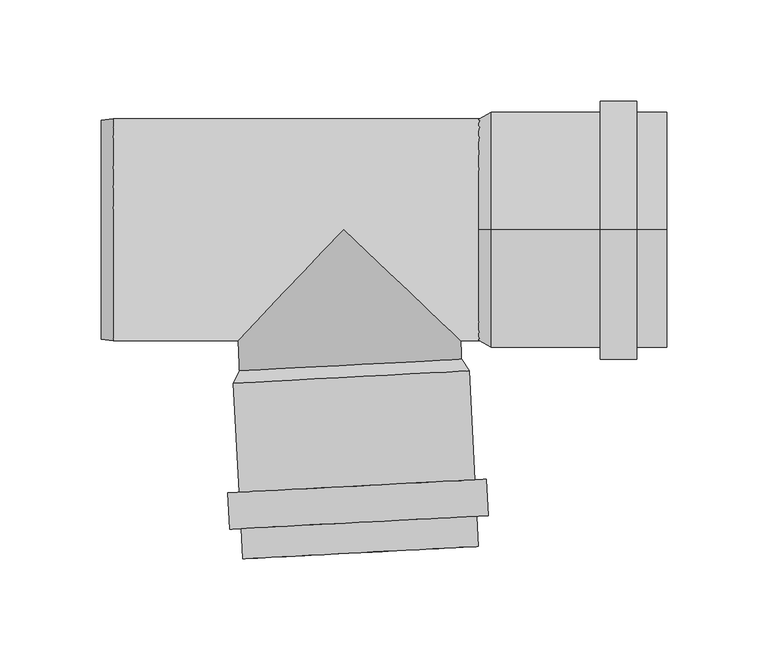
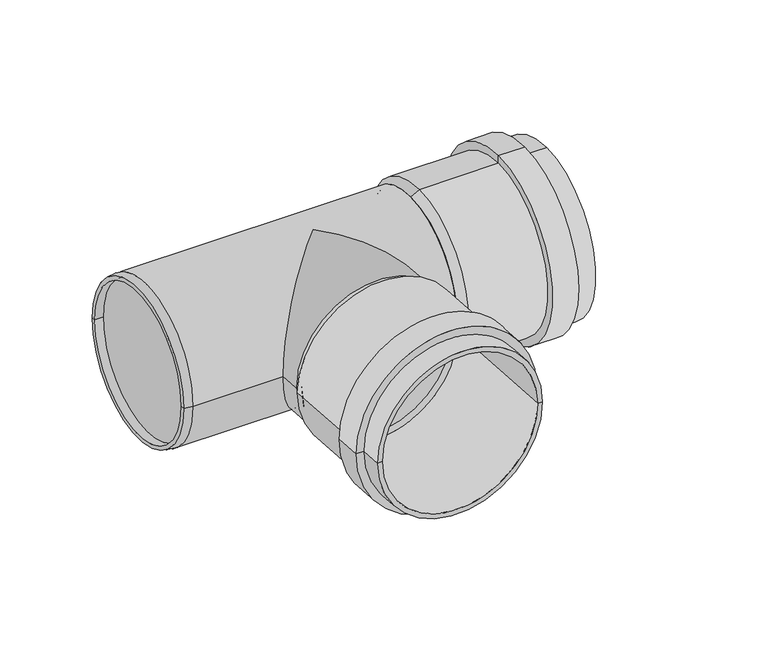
"""IFC4 building model written with IfcOpenShell, lengths in millimetres: pipe fitting geometry, OSMA_KG2000_PPKGEA : Odbočka 87°."""

import ifcopenshell
import ifcopenshell.guid

model = None  # the IFC model being written
_history = None  # IfcOwnerHistory: only IFC2X3 demands one
_inside = {}  # id of a spatial element -> (the spatial element, [elements in it])
_under = {}  # id of a project, library or spatial element -> (it, [spatial elements below it])
_declared = {}  # id of a project -> (the project, [libraries it declares])
_typed = {}  # id of a type object -> (the type object, [elements of that type])
_made_of = {}  # id of a material, layer set ... -> (it, [elements and type objects made of it])


def new_model(schema):
    """Start an empty IFC model of exactly this schema.

    Asked for "IFC4X3", IfcOpenShell would pick the latest addendum, in which some entities
    have other attributes; the version numbers below select the first issue.
    IFC2X3 requires an IfcOwnerHistory on every rooted entity: one is made here for all.
    """
    global model, _history
    if schema == "IFC4X3":
        model = ifcopenshell.file(schema_version=(4, 3, 0, 0))
    else:
        model = ifcopenshell.file(schema=schema)
    _inside.clear()
    _under.clear()
    _declared.clear()
    _typed.clear()
    _made_of.clear()
    _history = None
    if model.schema == "IFC2X3":
        org = make("IfcOrganization", Name="unknown")
        user = make(
            "IfcPersonAndOrganization",
            ThePerson=make("IfcPerson", FamilyName="unknown"),
            TheOrganization=org,
        )
        app = make(
            "IfcApplication",
            ApplicationDeveloper=org,
            Version="unknown",
            ApplicationFullName="unknown",
            ApplicationIdentifier="unknown",
        )
        _history = make(
            "IfcOwnerHistory",
            OwningUser=user,
            OwningApplication=app,
            ChangeAction="ADDED",
            CreationDate=0,
        )
    return model


def make(cls, **values):
    """One entity of the class cls with the attributes given. An attribute that is None is left unset."""
    return model.create_entity(
        cls, **{name: value for name, value in values.items() if value is not None}
    )


def rooted(cls, **values):
    """An entity with a GlobalId (a new one), such as an element, a storey or a relation."""
    return make(cls, GlobalId=ifcopenshell.guid.new(), OwnerHistory=_history, **values)


def si_unit(unit_type, name, prefix=None):
    """IfcSIUnit, for example si_unit("LENGTHUNIT", "METRE", prefix="MILLI")."""
    return make("IfcSIUnit", UnitType=unit_type, Prefix=prefix, Name=name)


def assignment(units):
    """IfcUnitAssignment: the units of a project."""
    return None if units is None else make("IfcUnitAssignment", Units=units)


def point(xyz):
    """IfcCartesianPoint."""
    return None if xyz is None else make("IfcCartesianPoint", Coordinates=xyz)


def direction(xyz):
    """IfcDirection."""
    return None if xyz is None else make("IfcDirection", DirectionRatios=xyz)


def frame(location, z_axis=None, x_axis=None):
    """IfcAxis2Placement3D, a coordinate frame: its origin and axes. An axis left out is left unset."""
    return make(
        "IfcAxis2Placement3D",
        Location=point(location),
        Axis=direction(z_axis),
        RefDirection=direction(x_axis),
    )


def origin():
    """The frame at (0, 0, 0) with its axes left unset."""
    return frame((0.0, 0.0, 0.0))


def place(relative_to, where):
    """IfcLocalPlacement: puts the frame where relative to a parent placement (None: the world)."""
    return make(
        "IfcLocalPlacement", PlacementRelTo=relative_to, RelativePlacement=where
    )


def context(
    kind, dimensions, precision=None, world=None, true_north=None, identifier=None
):
    """IfcGeometricRepresentationContext, for example the 3D "Model" context."""
    return make(
        "IfcGeometricRepresentationContext",
        ContextIdentifier=identifier,
        ContextType=kind,
        CoordinateSpaceDimension=dimensions,
        Precision=precision,
        WorldCoordinateSystem=world,
        TrueNorth=true_north,
    )


def project(units=None, contexts=None):
    """IfcProject with its units and contexts."""
    return rooted(
        "IfcProject",
        Name="project",
        RepresentationContexts=contexts,
        UnitsInContext=assignment(units),
    )


def spatial(cls, under=None, at=None, **own):
    """A site, building, storey or space (cls), placed at a placement, below another one or the project."""
    s = rooted(cls, ObjectPlacement=at, **own)
    if under is not None:
        _under.setdefault(under.id(), (under, []))[1].append(s)
    return s


def polyline(points):
    """IfcPolyline through the points."""
    return make("IfcPolyline", Points=[point(p) for p in points])


def circle_curve(where, radius):
    """IfcCircle in the frame where."""
    return make("IfcCircle", Position=where, Radius=radius)


def ellipse_curve(where, semi_axis1, semi_axis2):
    """IfcEllipse in the frame where."""
    return make(
        "IfcEllipse", Position=where, SemiAxis1=semi_axis1, SemiAxis2=semi_axis2
    )


def shape(context_of_items, identifier, shape_type, items):
    """IfcShapeRepresentation: the items that make up one representation, for example the "Body"."""
    return make(
        "IfcShapeRepresentation",
        ContextOfItems=context_of_items,
        RepresentationIdentifier=identifier,
        RepresentationType=shape_type,
        Items=items,
    )


def source(mapping_origin, context_of_items, identifier, shape_type, items):
    """IfcRepresentationMap: a shape defined once, which mapped items show again and again."""
    return make(
        "IfcRepresentationMap",
        MappingOrigin=mapping_origin,
        MappedRepresentation=shape(context_of_items, identifier, shape_type, items),
    )


def transform(
    local_origin,
    x_axis=None,
    y_axis=None,
    z_axis=None,
    scale=None,
    scale2=None,
    scale3=None,
    uniform=True,
):
    """IfcCartesianTransformationOperator3D, or its non-uniform kind. x_axis, y_axis, z_axis: its Axis1, 2, 3."""
    if uniform:
        return make(
            "IfcCartesianTransformationOperator3D",
            Axis1=direction(x_axis),
            Axis2=direction(y_axis),
            LocalOrigin=point(local_origin),
            Scale=scale,
            Axis3=direction(z_axis),
        )
    return make(
        "IfcCartesianTransformationOperator3DnonUniform",
        Axis1=direction(x_axis),
        Axis2=direction(y_axis),
        LocalOrigin=point(local_origin),
        Scale=scale,
        Axis3=direction(z_axis),
        Scale2=scale2,
        Scale3=scale3,
    )


def mapped(mapping_source, mapping_target):
    """IfcMappedItem: shows the shape of a source again, moved by a transform."""
    return make(
        "IfcMappedItem", MappingSource=mapping_source, MappingTarget=mapping_target
    )


def made_of(thing, what):
    """Note that an element or type object is made of a material, layer set ...; save() writes the relation."""
    if what is not None:
        _made_of.setdefault(what.id(), (what, []))[1].append(thing)
    return thing


def element(
    cls,
    number,
    at=None,
    inside=None,
    cuts=None,
    type_object=None,
    material=None,
    context=None,
    identifier="Body",
    shape_type=None,
    held_by="IfcProductDefinitionShape",
    body=None,
    shapes=None,
    **own,
):
    """One element of the class cls, such as IfcWall. Its Tag is "e" and its number.

    at: its placement. inside: the storey or other place that contains it. cuts: it is an
    opening in that element (IfcRelVoidsElement). A single representation is given by context,
    identifier, shape_type and body (its items); several are given by shapes. held_by: the class
    of the entity that holds the representations. save() writes the other relations.
    """
    e = rooted(cls, Tag="e%d" % number, ObjectPlacement=at, **own)
    if body is not None:
        shapes = [shape(context, identifier, shape_type, body)]
    if shapes is not None:
        e.Representation = make(held_by, Representations=shapes)
    if inside is not None:
        _inside.setdefault(inside.id(), (inside, []))[1].append(e)
    if cuts is not None:
        rooted(
            "IfcRelVoidsElement", RelatingBuildingElement=cuts, RelatedOpeningElement=e
        )
    if type_object is not None:
        _typed.setdefault(type_object.id(), (type_object, []))[1].append(e)
    return made_of(e, material)


def aggregate(whole, parts):
    """IfcRelAggregates: a whole, such as a stair, and the parts it consists of."""
    return rooted("IfcRelAggregates", RelatingObject=whole, RelatedObjects=parts)


def save(model, path):
    """Write the relations noted so far, then the file.

    IfcRelAggregates (storeys below a building ...), IfcRelContainedInSpatialStructure (elements
    in a storey), IfcRelDefinesByType, IfcRelAssociatesMaterial and IfcRelDeclares: one each for
    every whole, place, type object, material and project.
    """
    for whole, parts in _under.values():
        aggregate(whole, parts)
    for where, things in _inside.values():
        rooted(
            "IfcRelContainedInSpatialStructure",
            RelatedElements=things,
            RelatingStructure=where,
        )
    for kind, things in _typed.values():
        rooted("IfcRelDefinesByType", RelatedObjects=things, RelatingType=kind)
    for what, things in _made_of.values():
        rooted("IfcRelAssociatesMaterial", RelatedObjects=things, RelatingMaterial=what)
    for by, libraries in _declared.values():
        rooted("IfcRelDeclares", RelatingContext=by, RelatedDefinitions=libraries)
    model.write(path)


def plane_surface(at):
    """IfcPlane: the flat surface through the origin of the frame at, square to its z axis."""
    return make("IfcPlane", Position=at)


def cylinder_surface(at, radius):
    """IfcCylindricalSurface: all points at the distance radius from the z axis of the frame at."""
    return make("IfcCylindricalSurface", Position=at, Radius=radius)


def revolved_surface(curve, axis_point, axis_direction):
    """IfcSurfaceOfRevolution: the curve turned about the line through axis_point along axis_direction."""
    return make(
        "IfcSurfaceOfRevolution",
        SweptCurve=make("IfcArbitraryOpenProfileDef", ProfileType="CURVE", Curve=curve),
        AxisPosition=make("IfcAxis1Placement", Location=point(axis_point), Axis=direction(axis_direction)),
    )


def advanced_brep(points, edges, surfaces, faces):
    """IfcAdvancedBrep: a solid bounded by faces that lie on surfaces and meet in shared edges.

    An edge is (start, end): straight between two places in points (the first is 0);
    or (start, end, curve); or (start, end, curve, False) where it runs against its curve.
    A face is (place in surfaces, loops), or (place, loops, False) where it looks against
    its surface's normal. A loop lists edges by number (the first is 1), with a minus sign
    where the edge is run from its end to its start. The first loop is the outer one.
    """
    corners = [point(p) for p in points]
    vertices = [make("IfcVertexPoint", VertexGeometry=c) for c in corners]
    made = []
    for start, end, *more in edges:
        made.append(
            make(
                "IfcEdgeCurve",
                EdgeStart=vertices[start],
                EdgeEnd=vertices[end],
                EdgeGeometry=more[0] if more else make("IfcPolyline", Points=[corners[start], corners[end]]),
                SameSense=more[1] if len(more) > 1 else True,
            )
        )
    hull = []
    for where, loops, *sense in faces:
        bounds = []
        for j, loop in enumerate(loops):
            ring = [make("IfcOrientedEdge", EdgeElement=made[abs(k) - 1], Orientation=k > 0) for k in loop]
            bounds.append(
                make(
                    "IfcFaceOuterBound" if j == 0 else "IfcFaceBound",
                    Bound=make("IfcEdgeLoop", EdgeList=ring),
                    Orientation=True,
                )
            )
        hull.append(make("IfcAdvancedFace", Bounds=bounds, FaceSurface=surfaces[where], SameSense=sense[0] if sense else True))
    return make("IfcAdvancedBrep", Outer=make("IfcClosedShell", CfsFaces=hull))


def pipe_fitting_45521c51(model_context):
    return source(origin(), model_context, "Body", "AdvancedBrep", [
        advanced_brep(
        [(58.7451492, -70.0214784, 1.6299565), (-51.1040996, -75.7784336, 1.6299565), (-46.5508714, -162.6592032, 1.6299565), (63.2983774, -156.902248, 1.6299565), (64.9666313, -123.7695311, 1.6299565), (-51.6732984, -129.8823708, 1.6299565), (-54.49944, -75.9563759, 1.6299565), (62.1404896, -69.8435362, 1.6299565), (70.5589567, -123.4764497, 1.6299565), (-57.2656238, -130.1754521, 1.6299565), (71.5010039, -141.4517813, 1.6299565), (-56.3235766, -148.1507837, 1.6299565), (65.9086785, -141.7448627, 1.6299565), (-50.7312512, -147.8577024, 1.6299565), (66.6937178, -156.7243057, 1.6299565), (-49.9462118, -162.8371454, 1.6299565), (55.0357931, -64.2076435, 1.6299565), (-48.0227749, -69.6087142, 1.6299565), (58.4311335, -64.0297012, 1.6299565), (-51.4181153, -69.7866564, 1.6299565)],
        [
            (0, 1, circle_curve(frame((3.8205248, -72.899956, 1.6299565), z_axis=(-0.05233595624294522, 0.9986295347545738, 0.0), x_axis=(-0.9986295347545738, -0.05233595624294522, 0.0)), 55.0)),
            (1, 2),
            (2, 3, circle_curve(frame((8.373753, -159.7807256, 1.6299565), z_axis=(0.05233595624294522, -0.9986295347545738, 0.0), x_axis=(-0.9986295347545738, -0.05233595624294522, 0.0)), 55.0)),
            (3, 0),
            (1, 0, circle_curve(frame((3.8205248, -72.899956, 1.6299565), z_axis=(-0.05233595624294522, 0.9986295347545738, 0.0), x_axis=(-0.9986295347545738, -0.05233595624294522, 0.0)), 55.0)),
            (3, 2, circle_curve(frame((8.373753, -159.7807256, 1.6299565), z_axis=(0.05233595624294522, -0.9986295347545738, 0.0), x_axis=(-0.9986295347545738, -0.05233595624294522, 0.0)), 55.0)),
            (4, 5, circle_curve(frame((6.6466664, -126.8259509, 1.6299565), z_axis=(-0.05233595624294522, 0.9986295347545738, 0.0), x_axis=(-0.9986295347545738, -0.05233595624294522, 0.0)), 58.4)),
            (5, 6),
            (6, 7, circle_curve(frame((3.8205248, -72.899956, 1.6299565), z_axis=(0.05233595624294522, -0.9986295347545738, 0.0), x_axis=(-0.9986295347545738, -0.05233595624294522, 0.0)), 58.4)),
            (7, 4),
            (5, 4, circle_curve(frame((6.6466664, -126.8259509, 1.6299565), z_axis=(-0.05233595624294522, 0.9986295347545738, 0.0), x_axis=(-0.9986295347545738, -0.05233595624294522, 0.0)), 58.4)),
            (7, 6, circle_curve(frame((3.8205248, -72.899956, 1.6299565), z_axis=(0.05233595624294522, -0.9986295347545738, 0.0), x_axis=(-0.9986295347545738, -0.05233595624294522, 0.0)), 58.4)),
            (8, 9, circle_curve(frame((6.6466664, -126.8259509, 1.6299565), z_axis=(-0.05233595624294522, 0.9986295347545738, 0.0), x_axis=(-0.9986295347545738, -0.05233595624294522, 0.0)), 64.0)),
            (9, 5),
            (4, 8),
            (9, 8, circle_curve(frame((6.6466664, -126.8259509, 1.6299565), z_axis=(-0.05233595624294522, 0.9986295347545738, 0.0), x_axis=(-0.9986295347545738, -0.05233595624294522, 0.0)), 64.0)),
            (10, 11, circle_curve(frame((7.5887137, -144.8012825, 1.6299565), z_axis=(-0.05233595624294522, 0.9986295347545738, 0.0), x_axis=(-0.9986295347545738, -0.05233595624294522, 0.0)), 64.0)),
            (11, 9),
            (8, 10),
            (11, 10, circle_curve(frame((7.5887137, -144.8012825, 1.6299565), z_axis=(-0.05233595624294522, 0.9986295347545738, 0.0), x_axis=(-0.9986295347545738, -0.05233595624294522, 0.0)), 64.0)),
            (12, 13, circle_curve(frame((7.5887137, -144.8012825, 1.6299565), z_axis=(-0.05233595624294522, 0.9986295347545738, 0.0), x_axis=(-0.9986295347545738, -0.05233595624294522, 0.0)), 58.4)),
            (13, 11),
            (10, 12),
            (13, 12, circle_curve(frame((7.5887137, -144.8012825, 1.6299565), z_axis=(-0.05233595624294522, 0.9986295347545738, 0.0), x_axis=(-0.9986295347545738, -0.05233595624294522, 0.0)), 58.4)),
            (14, 15, circle_curve(frame((8.373753, -159.7807256, 1.6299565), z_axis=(-0.05233595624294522, 0.9986295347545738, 0.0), x_axis=(-0.9986295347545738, -0.05233595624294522, 0.0)), 58.4)),
            (15, 13),
            (12, 14),
            (15, 14, circle_curve(frame((8.373753, -159.7807256, 1.6299565), z_axis=(-0.05233595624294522, 0.9986295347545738, 0.0), x_axis=(-0.9986295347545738, -0.05233595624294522, 0.0)), 58.4)),
            (2, 15),
            (14, 3),
            (16, 17, circle_curve(frame((3.5065091, -66.9081788, 1.6299565), z_axis=(-0.05233595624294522, 0.9986295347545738, 0.0), x_axis=(-0.9986295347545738, -0.05233595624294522, 0.0)), 51.6)),
            (17, 1),
            (0, 16),
            (17, 16, circle_curve(frame((3.5065091, -66.9081788, 1.6299565), z_axis=(-0.05233595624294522, 0.9986295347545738, 0.0), x_axis=(-0.9986295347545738, -0.05233595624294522, 0.0)), 51.6)),
            (18, 19, circle_curve(frame((3.5065091, -66.9081788, 1.6299565), z_axis=(-0.05233595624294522, 0.9986295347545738, 0.0), x_axis=(-0.9986295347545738, -0.05233595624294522, 0.0)), 55.0)),
            (19, 17),
            (16, 18),
            (19, 18, circle_curve(frame((3.5065091, -66.9081788, 1.6299565), z_axis=(-0.05233595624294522, 0.9986295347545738, 0.0), x_axis=(-0.9986295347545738, -0.05233595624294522, 0.0)), 55.0)),
            (6, 19),
            (18, 7),
        ],
        [
            revolved_surface(polyline([(-46.55087136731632, -162.65920319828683, 1.6299565), (-51.10409956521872, -75.778433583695, 1.6299565)]), (148.083239, -2825.5965237, 1.6299565), (0.05233595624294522, -0.9986295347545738, 0.0)),
            cylinder_surface(frame((148.083239, -2825.5965237, 1.6299565), z_axis=(0.05233595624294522, -0.9986295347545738, 0.0), x_axis=(-0.9986295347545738, -0.05233595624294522, 0.0)), 58.4),
            plane_surface(frame((6.6466664, -126.8259509, 1.6299565), z_axis=(-0.05233595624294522, 0.9986295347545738, 0.0), x_axis=(-0.9986295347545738, -0.05233595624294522, 0.0))),
            cylinder_surface(frame((148.083239, -2825.5965237, 1.6299565), z_axis=(0.05233595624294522, -0.9986295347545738, 0.0), x_axis=(-0.9986295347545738, -0.05233595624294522, 0.0)), 64.0),
            plane_surface(frame((7.5887137, -144.8012825, 1.6299565), z_axis=(0.05233595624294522, -0.9986295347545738, 0.0), x_axis=(-0.9986295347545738, -0.05233595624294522, 0.0))),
            plane_surface(frame((8.373753, -159.7807256, 1.6299565), z_axis=(0.05233595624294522, -0.9986295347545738, 0.0), x_axis=(-0.9986295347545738, -0.05233595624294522, 0.0))),
            revolved_surface(polyline([(-51.1040996, -75.7784336, 1.6299565), (-48.0227749, -69.6087142, 1.6299565)]), (148.083239, -2825.5965237, 1.6299565), (0.05233595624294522, -0.9986295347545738, 0.0)),
            plane_surface(frame((3.5065091, -66.9081788, 1.6299565), z_axis=(-0.05233595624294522, 0.9986295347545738, 0.0), x_axis=(-0.9986295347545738, -0.05233595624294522, 0.0))),
            revolved_surface(polyline([(-51.4181153, -69.7866564, 1.6299565), (-54.49944, -75.9563759, 1.6299565)]), (148.083239, -2825.5965237, 1.6299565), (0.05233595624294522, -0.9986295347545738, 0.0)),
        ],
        [
            (0, [[1, 2, 3, 4]]),
            (0, [[5, -4, 6, -2]]),
            (1, [[7, 8, 9, 10]]),
            (1, [[11, -10, 12, -8]]),
            (2, [[13, 14, -7, 15]]),
            (2, [[16, -15, -11, -14]]),
            (3, [[17, 18, -13, 19]]),
            (3, [[20, -19, -16, -18]]),
            (4, [[21, 22, -17, 23]]),
            (4, [[24, -23, -20, -22]]),
            (1, [[25, 26, -21, 27]]),
            (1, [[28, -27, -24, -26]]),
            (5, [[-3, 29, -25, 30]]),
            (5, [[-6, -30, -28, -29]]),
            (6, [[31, 32, -1, 33]]),
            (6, [[34, -33, -5, -32]]),
            (7, [[35, 36, -31, 37]]),
            (7, [[38, -37, -34, -36]]),
            (8, [[-9, 39, -35, 40]]),
            (8, [[-12, -40, -38, -39]]),
        ],
    ),
        advanced_brep(
        [(73.0, 0.0, -55.0), (73.0, 0.0, 55.0), (160.0, 0.0, 55.0), (160.0, 0.0, -55.0), (127.0, 0.0, -58.4), (127.0, 0.0, 58.4), (73.0, 0.0, 58.4), (73.0, 0.0, -58.4), (127.0, 0.0, -64.0), (127.0, 0.0, 64.0), (145.0, 0.0, -64.0), (145.0, 0.0, 64.0), (145.0, 0.0, -58.4), (145.0, 0.0, 58.4), (160.0, 0.0, -58.4), (160.0, 0.0, 58.4), (67.0, 0.0, -51.6), (67.0, 0.0, 51.6), (67.0, 0.0, -55.0), (67.0, 0.0, 55.0)],
        [
            (0, 1, circle_curve(frame((73.0, 0.0, 0.0), z_axis=(-1.0, 0.0, 0.0), x_axis=(0.0, 0.0, 1.0)), 55.0)),
            (1, 2),
            (2, 3, circle_curve(frame((160.0, 0.0, 0.0), z_axis=(1.0, 0.0, 0.0), x_axis=(0.0, 0.0, 1.0)), 55.0)),
            (3, 0),
            (1, 0, circle_curve(frame((73.0, 0.0, 0.0), z_axis=(-1.0, 0.0, 0.0), x_axis=(0.0, 0.0, 1.0)), 55.0)),
            (3, 2, circle_curve(frame((160.0, 0.0, 0.0), z_axis=(1.0, 0.0, 0.0), x_axis=(0.0, 0.0, 1.0)), 55.0)),
            (4, 5, circle_curve(frame((127.0, 0.0, 0.0), z_axis=(-1.0, 0.0, 0.0), x_axis=(0.0, 0.0, 1.0)), 58.4)),
            (5, 6),
            (6, 7, circle_curve(frame((73.0, 0.0, 0.0), z_axis=(1.0, 0.0, 0.0), x_axis=(0.0, 0.0, 1.0)), 58.4)),
            (7, 4),
            (5, 4, circle_curve(frame((127.0, 0.0, 0.0), z_axis=(-1.0, 0.0, 0.0), x_axis=(0.0, 0.0, 1.0)), 58.4)),
            (7, 6, circle_curve(frame((73.0, 0.0, 0.0), z_axis=(1.0, 0.0, 0.0), x_axis=(0.0, 0.0, 1.0)), 58.4)),
            (8, 9, circle_curve(frame((127.0, 0.0, 0.0), z_axis=(-1.0, 0.0, 0.0), x_axis=(0.0, 0.0, 1.0)), 64.0)),
            (9, 5),
            (4, 8),
            (9, 8, circle_curve(frame((127.0, 0.0, 0.0), z_axis=(-1.0, 0.0, 0.0), x_axis=(0.0, 0.0, 1.0)), 64.0)),
            (10, 11, circle_curve(frame((145.0, 0.0, 0.0), z_axis=(-1.0, 0.0, 0.0), x_axis=(0.0, 0.0, 1.0)), 64.0)),
            (11, 9),
            (8, 10),
            (11, 10, circle_curve(frame((145.0, 0.0, 0.0), z_axis=(-1.0, 0.0, 0.0), x_axis=(0.0, 0.0, 1.0)), 64.0)),
            (12, 13, circle_curve(frame((145.0, 0.0, 0.0), z_axis=(-1.0, 0.0, 0.0), x_axis=(0.0, 0.0, 1.0)), 58.4)),
            (13, 11),
            (10, 12),
            (13, 12, circle_curve(frame((145.0, 0.0, 0.0), z_axis=(-1.0, 0.0, 0.0), x_axis=(0.0, 0.0, 1.0)), 58.4)),
            (14, 15, circle_curve(frame((160.0, 0.0, 0.0), z_axis=(-1.0, 0.0, 0.0), x_axis=(0.0, 0.0, 1.0)), 58.4)),
            (15, 13),
            (12, 14),
            (15, 14, circle_curve(frame((160.0, 0.0, 0.0), z_axis=(-1.0, 0.0, 0.0), x_axis=(0.0, 0.0, 1.0)), 58.4)),
            (2, 15),
            (14, 3),
            (16, 17, circle_curve(frame((67.0, 0.0, 0.0), z_axis=(-1.0, 0.0, 0.0), x_axis=(0.0, 0.0, 1.0)), 51.6)),
            (17, 1),
            (0, 16),
            (17, 16, circle_curve(frame((67.0, 0.0, 0.0), z_axis=(-1.0, 0.0, 0.0), x_axis=(0.0, 0.0, 1.0)), 51.6)),
            (18, 19, circle_curve(frame((67.0, 0.0, 0.0), z_axis=(-1.0, 0.0, 0.0), x_axis=(0.0, 0.0, 1.0)), 55.0)),
            (19, 17),
            (16, 18),
            (19, 18, circle_curve(frame((67.0, 0.0, 0.0), z_axis=(-1.0, 0.0, 0.0), x_axis=(0.0, 0.0, 1.0)), 55.0)),
            (6, 19),
            (18, 7),
        ],
        [
            revolved_surface(polyline([(160.0, 0.0, 55.0), (73.0, 0.0, 55.0)]), (2829.4742198, 0.0, 0.0), (1.0, 0.0, 0.0)),
            cylinder_surface(frame((2829.4742198, 0.0, 0.0), z_axis=(1.0, 0.0, 0.0), x_axis=(0.0, 0.0, 1.0)), 58.4),
            plane_surface(frame((127.0, 0.0, 0.0), z_axis=(-1.0, 0.0, 0.0), x_axis=(0.0, 0.0, 1.0))),
            cylinder_surface(frame((2829.4742198, 0.0, 0.0), z_axis=(1.0, 0.0, 0.0), x_axis=(0.0, 0.0, 1.0)), 64.0),
            plane_surface(frame((145.0, 0.0, 0.0), z_axis=(1.0, 0.0, 0.0), x_axis=(0.0, 0.0, 1.0))),
            plane_surface(frame((160.0, 0.0, 0.0), z_axis=(1.0, 0.0, 0.0), x_axis=(0.0, 0.0, 1.0))),
            revolved_surface(polyline([(73.0, 0.0, 55.0), (67.0, 0.0, 51.6)]), (2829.4742198, 0.0, 0.0), (1.0, 0.0, 0.0)),
            plane_surface(frame((67.0, 0.0, 0.0), z_axis=(-1.0, 0.0, 0.0), x_axis=(0.0, 0.0, 1.0))),
            revolved_surface(polyline([(67.0, 0.0, 55.0), (73.0, 0.0, 58.4)]), (2829.4742198, 0.0, 0.0), (1.0, 0.0, 0.0)),
        ],
        [
            (0, [[1, 2, 3, 4]]),
            (0, [[5, -4, 6, -2]]),
            (1, [[7, 8, 9, 10]]),
            (1, [[11, -10, 12, -8]]),
            (2, [[13, 14, -7, 15]]),
            (2, [[16, -15, -11, -14]]),
            (3, [[17, 18, -13, 19]]),
            (3, [[20, -19, -16, -18]]),
            (4, [[21, 22, -17, 23]]),
            (4, [[24, -23, -20, -22]]),
            (1, [[25, 26, -21, 27]]),
            (1, [[28, -27, -24, -26]]),
            (5, [[-3, 29, -25, 30]]),
            (5, [[-6, -30, -28, -29]]),
            (6, [[31, 32, -1, 33]]),
            (6, [[34, -33, -5, -32]]),
            (7, [[35, 36, -31, 37]]),
            (7, [[38, -37, -34, -36]]),
            (8, [[-9, 39, -35, 40]]),
            (8, [[-12, -40, -38, -39]]),
        ],
    ),
        advanced_brep(
        [(-51.2611075, -72.782545, 0.0), (58.5881413, -67.0255898, 0.0), (57.9579069, -55.0, 0.0), (0.0, 0.0, 55.0), (-52.1930512, -55.0, 0.0), (0.0, 0.0, -55.0), (-120.0, -51.6, 0.0), (-120.0, 51.6, 0.0), (-120.0, 54.209508, 0.0), (-120.0, -54.209508, 0.0), (-114.0, -51.6, 0.0), (-114.0, 51.6, 0.0), (-114.0, 55.0, 0.0), (-114.0, -55.0, 0.0), (70.0, 55.0, 0.0), (70.0, -55.0, 0.0)],
        [
            (0, 1, circle_curve(frame((3.6635169, -69.9040674, 0.0), z_axis=(0.052335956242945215, -0.9986295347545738, 0.0), x_axis=(0.9986295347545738, 0.052335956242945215, 0.0)), 55.0)),
            (1, 0, circle_curve(frame((3.6635169, -69.9040674, 0.0), z_axis=(0.052335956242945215, -0.9986295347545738, 0.0), x_axis=(0.9986295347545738, 0.052335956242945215, 0.0)), 55.0)),
            (1, 2),
            (2, 3, ellipse_curve(frame((0.0, 0.0, 0.0), z_axis=(-0.6883545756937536, -0.7253743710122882, 0.0), x_axis=(-0.7253743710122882, 0.6883545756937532, 0.0)), 79.9006819, 55.0)),
            (3, 4, ellipse_curve(frame((0.0, 0.0, 0.0), z_axis=(0.7253743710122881, -0.6883545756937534, 0.0), x_axis=(0.6883545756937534, 0.7253743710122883, 0.0)), 75.822916, 55.0)),
            (4, 0),
            (4, 5, ellipse_curve(frame((0.0, 0.0, 0.0), z_axis=(0.7253743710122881, -0.6883545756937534, 0.0), x_axis=(0.6883545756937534, 0.7253743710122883, 0.0)), 75.822916, 55.0)),
            (5, 2, ellipse_curve(frame((0.0, 0.0, 0.0), z_axis=(-0.6883545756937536, -0.7253743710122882, 0.0), x_axis=(-0.7253743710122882, 0.6883545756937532, 0.0)), 79.9006819, 55.0)),
            (6, 7, circle_curve(frame((-120.0, 0.0, 0.0), z_axis=(1.0, 0.0, 0.0), x_axis=(0.0, 1.0, 0.0)), 51.6)),
            (7, 8),
            (8, 9, circle_curve(frame((-120.0, 0.0, 0.0), z_axis=(-1.0, 0.0, 0.0), x_axis=(0.0, 1.0, 0.0)), 54.209508)),
            (9, 6),
            (7, 6, circle_curve(frame((-120.0, 0.0, 0.0), z_axis=(1.0, 0.0, 0.0), x_axis=(0.0, 1.0, 0.0)), 51.6)),
            (9, 8, circle_curve(frame((-120.0, 0.0, 0.0), z_axis=(-1.0, 0.0, 0.0), x_axis=(0.0, 1.0, 0.0)), 54.209508)),
            (6, 10),
            (10, 11, circle_curve(frame((-114.0, 0.0, 0.0), z_axis=(1.0, 0.0, 0.0), x_axis=(0.0, 1.0, 0.0)), 51.6)),
            (11, 7),
            (11, 10, circle_curve(frame((-114.0, 0.0, 0.0), z_axis=(1.0, 0.0, 0.0), x_axis=(0.0, 1.0, 0.0)), 51.6)),
            (8, 12),
            (12, 13, circle_curve(frame((-114.0, 0.0, 0.0), z_axis=(-1.0, 0.0, 0.0), x_axis=(0.0, 1.0, 0.0)), 55.0)),
            (13, 9),
            (13, 12, circle_curve(frame((-114.0, 0.0, 0.0), z_axis=(-1.0, 0.0, 0.0), x_axis=(0.0, 1.0, 0.0)), 55.0)),
            (14, 15, circle_curve(frame((70.0, 0.0, 0.0), z_axis=(1.0, 0.0, 0.0), x_axis=(0.0, -1.0, 0.0)), 55.0)),
            (15, 14, circle_curve(frame((70.0, 0.0, 0.0), z_axis=(1.0, 0.0, 0.0), x_axis=(0.0, -1.0, 0.0)), 55.0)),
            (14, 12),
            (13, 4),
            (2, 15),
        ],
        [
            plane_surface(frame((3.6635169, -69.9040674, 0.0), z_axis=(0.052335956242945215, -0.9986295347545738, 0.0), x_axis=(0.0, 0.0, 1.0))),
            cylinder_surface(frame((0.0, 0.0, 0.0), z_axis=(-0.052335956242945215, 0.9986295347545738, 0.0), x_axis=(0.9986295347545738, 0.052335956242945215, 0.0)), 55.0),
            plane_surface(frame((-120.0, 0.0, 0.0), z_axis=(-1.0, 0.0, 0.0), x_axis=(0.0, 1.0, 0.0))),
            revolved_surface(polyline([(-120.0, 51.6, 0.0), (-114.0, 51.6, 0.0)]), (1979.0, 0.0, 0.0), (-1.0, 0.0, 0.0)),
            revolved_surface(polyline([(-114.0, 55.0, 0.0), (-120.0, 54.209508, 0.0)]), (1979.0, 0.0, 0.0), (-1.0, 0.0, 0.0)),
            plane_surface(frame((70.0, 0.0, 0.0), z_axis=(1.0, 0.0, 0.0), x_axis=(0.0, 0.0, 1.0))),
            plane_surface(frame((-114.0, 0.0, 0.0), z_axis=(-1.0, 0.0, 0.0), x_axis=(0.0, 0.0, 1.0))),
            cylinder_surface(frame((70.0, 0.0, 0.0), z_axis=(1.0, 0.0, 0.0), x_axis=(0.0, -1.0, 0.0)), 55.0),
        ],
        [
            (0, [[1, 2]]),
            (1, [[-2, 3, 4, 5, 6]]),
            (1, [[-1, -6, 7, 8, -3]]),
            (2, [[9, 10, 11, 12]]),
            (2, [[-10, 13, -12, 14]]),
            (3, [[-9, 15, 16, 17]]),
            (3, [[-13, -17, 18, -15]]),
            (4, [[-11, 19, 20, 21]]),
            (4, [[-14, -21, 22, -19]]),
            (5, [[23, 24]]),
            (6, [[-16, -18]]),
            (7, [[-23, 25, -22, 26, -5, -4, 27]]),
            (7, [[-24, -27, -8, -7, -26, -20, -25]]),
        ],
    ),
    ])


if __name__ == "__main__":
    model = new_model("IFC4")
    model_context = context("Model", 3, world=origin())
    ifc_project = project(units=[si_unit("LENGTHUNIT", "METRE", prefix="MILLI")], contexts=[model_context])
    site = spatial("IfcSite", under=ifc_project)
    building = spatial("IfcBuilding", under=site)
    placement = place(None, origin())
    pipe_fitting_shape = pipe_fitting_45521c51(model_context)
    element("IfcPipeFitting", 1, ObjectType="OSMA_KG2000_PPKGEA : Odbočka 87°", at=placement, inside=building, context=model_context, shape_type="MappedRepresentation", body=[
        mapped(pipe_fitting_shape, transform((0.0, 0.0, 0.0), x_axis=(1.0, 0.0, 0.0), y_axis=(0.0, 1.0, 0.0), z_axis=(0.0, 0.0, 1.0))),
    ])
    save(model, "model.ifc")
